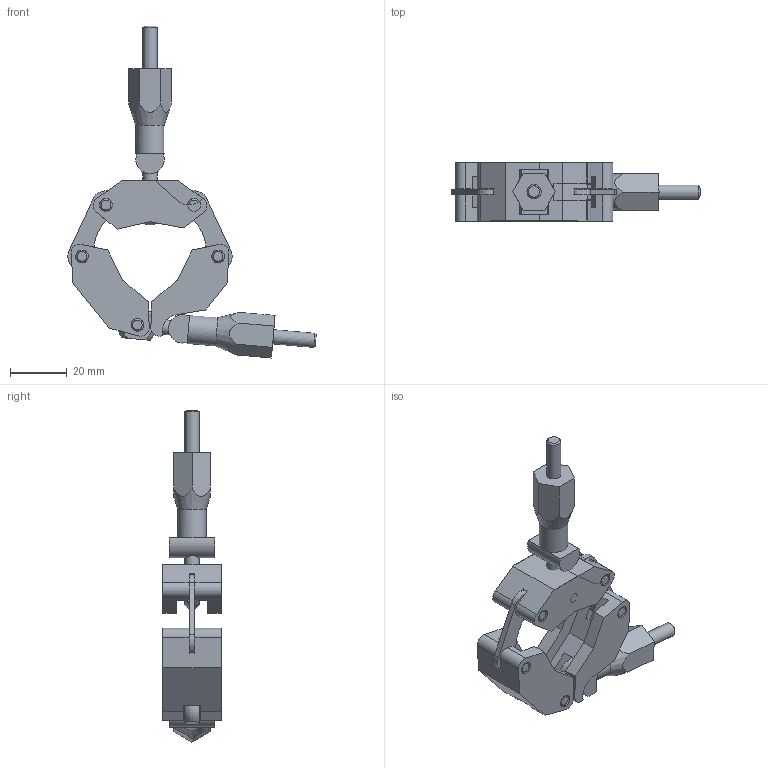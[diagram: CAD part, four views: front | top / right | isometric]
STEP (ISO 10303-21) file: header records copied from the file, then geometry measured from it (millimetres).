
FILE_DESCRIPTION( ( 'Unknown' ), '1' );
FILE_NAME( 'X:/Daten ( aktueller Bestand )/Projekte und Zeichnungen/Solid Edge/5 Spannringe/Alu/Spannrollenkette/1331.stp', 'Unknown', ( 'Unknown' ), ( 'Unknown' ), 'XStep 1.0', 'Unknown', ' ' );
FILE_SCHEMA( ( 'automotive_design' ) );
Length unit declared in the file: millimetre
Products named in the file (7): Assem1; 1331-1; 1331-3; 1331-2; 1331-11; 1331-12; 1331-4
Bounding box: 87.42 x 20.5 x 116.88 mm (x, y, z)
Volume: 58162.8 mm3; surface area: 31260.5 mm2
Topology: 17 solids, 17 shells, 308 faces, 802 edges, 534 vertices
Faces by surface type: plane 209, cylinder 79, cone 16, torus 4
Full cylindrical faces by diameter (mm): 4.4 x6, 4.5 x26, 5 x6, 10 x2
Entity records: 4964 total; most frequent: CARTESIAN_POINT 1088, DIRECTION 714, ORIENTED_EDGE 688, EDGE_CURVE 344, LINE 254, VECTOR 254, VERTEX_POINT 240, AXIS2_PLACEMENT_3D 230
